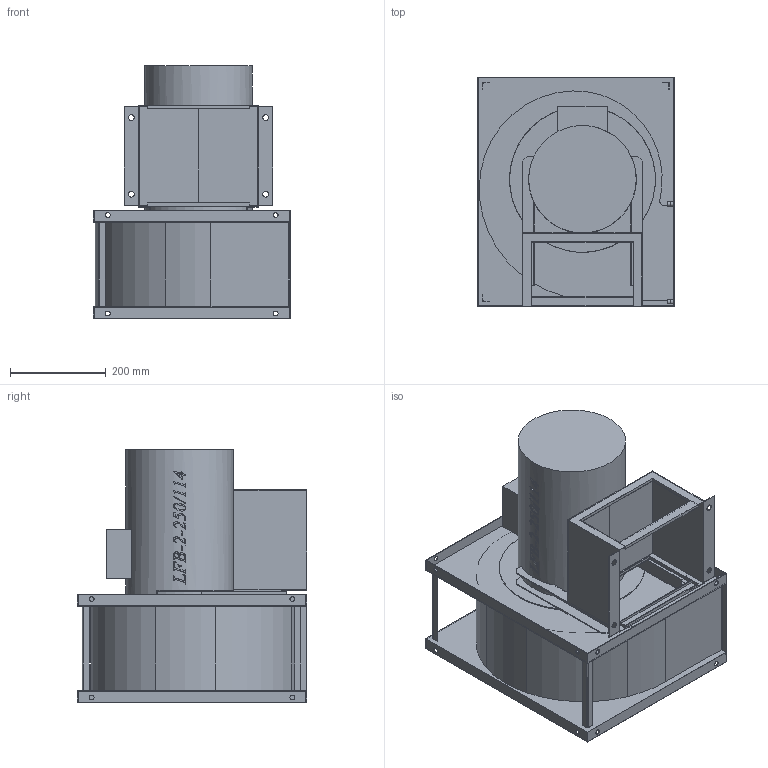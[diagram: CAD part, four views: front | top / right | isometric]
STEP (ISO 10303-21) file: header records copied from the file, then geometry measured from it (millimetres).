
FILE_DESCRIPTION(/* description */ (''),/* implementation_level */ '2;1');
FILE_NAME(/* name */ 'E:\Mariusz\Modele uproszczone\LFB\LFB_2_250_114 435011030\LFB_2_250_114 435011030\LFB_2_250_114 435011030.stp',/* time_stamp */ '2018-07-05T15:37:05+02:00',/* author */ ('M.Janczarek'),/* organization */ (''),/* preprocessor_version */ 'ST-DEVELOPER v16.5',/* originating_system */ 'Autodesk Inventor 2017',/* authorisation */ '');
FILE_SCHEMA (('AUTOMOTIVE_DESIGN { 1 0 10303 214 3 1 1 }'));
Products named in the file (1): LFB_2_250_114 435011030
Bounding box: 411 x 478 x 526.5 mm (x, y, z)
Volume: 38254643.8 mm3; surface area: 1657896.1 mm2
Topology: 1 solids, 1 shells, 3997 faces, 10963 edges, 7283 vertices
Faces by surface type: plane 3494, bspline 389, cylinder 100, cone 13, torus 1
Full cylindrical faces by diameter (mm): 6 x4, 6.6 x4, 8.9 x4, 9 x4, 9.1 x4, 9.2 x8, 10 x12, 12 x4, 224 x1, 304 x1, 308 x1, 310 x1
Entity records: 136187 total; most frequent: CARTESIAN_POINT 31539, ORIENTED_EDGE 21774, DIRECTION 17764, EDGE_CURVE 10886, LINE 9894, VECTOR 9894, VERTEX_POINT 7268, EDGE_LOOP 5323
